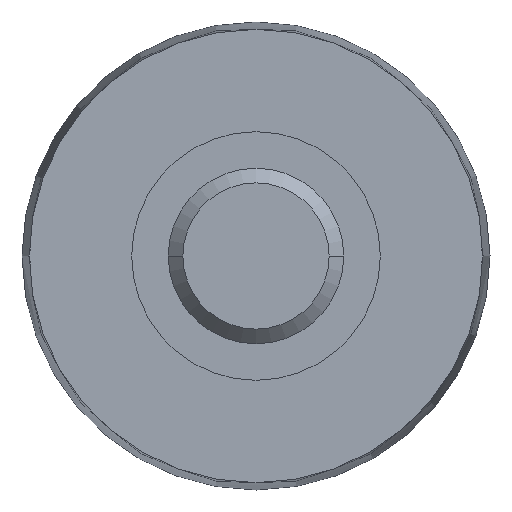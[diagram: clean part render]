
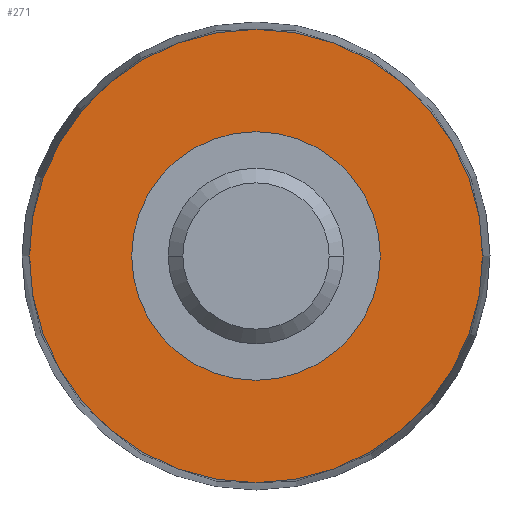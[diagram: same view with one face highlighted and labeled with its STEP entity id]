
A CAD part, left-side view. The second image highlights one B-rep face of the part: STEP entity #271.
In plain terms, the highlighted planar face has unit normal (-1, 0, 0).
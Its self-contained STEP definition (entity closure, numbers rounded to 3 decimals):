
#6 = CARTESIAN_POINT ( 'NONE',  ( -60., 0., 0. ) ) ;
#15 = DIRECTION ( 'NONE',  ( 1., 0., 0. ) ) ;
#34 = ORIENTED_EDGE ( 'NONE', *, *, #617, .F. ) ;
#105 = DIRECTION ( 'NONE',  ( 0., 1., 0. ) ) ;
#141 = DIRECTION ( 'NONE',  ( 0., 1., 0. ) ) ;
#151 = AXIS2_PLACEMENT_3D ( 'NONE', #351, #291, #141 ) ;
#163 = EDGE_CURVE ( 'NONE', #568, #421, #601, .T. ) ;
#183 = CIRCLE ( 'NONE', #225, 15.5 ) ;
#186 = VERTEX_POINT ( 'NONE', #647 ) ;
#212 = AXIS2_PLACEMENT_3D ( 'NONE', #6, #15, #362 ) ;
#225 = AXIS2_PLACEMENT_3D ( 'NONE', #385, #522, #431 ) ;
#236 = CARTESIAN_POINT ( 'NONE',  ( -60., 15.5, 0. ) ) ;
#254 = DIRECTION ( 'NONE',  ( 0., -1., 0. ) ) ;
#267 = EDGE_LOOP ( 'NONE', ( #535, #367 ) ) ;
#269 = FACE_OUTER_BOUND ( 'NONE', #612, .T. ) ;
#271 = ADVANCED_FACE ( 'NONE', ( #388, #269 ), #312, .T. ) ;
#291 = DIRECTION ( 'NONE',  ( 1., 0., 0. ) ) ;
#303 = DIRECTION ( 'NONE',  ( 1., 0., 0. ) ) ;
#312 = PLANE ( 'NONE',  #636 ) ;
#351 = CARTESIAN_POINT ( 'NONE',  ( -60., 0., 0. ) ) ;
#353 = CARTESIAN_POINT ( 'NONE',  ( -60., 8.5, 0. ) ) ;
#362 = DIRECTION ( 'NONE',  ( 0., 1., 0. ) ) ;
#367 = ORIENTED_EDGE ( 'NONE', *, *, #417, .T. ) ;
#385 = CARTESIAN_POINT ( 'NONE',  ( -60., 0., 0. ) ) ;
#388 = FACE_BOUND ( 'NONE', #267, .T. ) ;
#396 = CARTESIAN_POINT ( 'NONE',  ( -60., -8.5, 0. ) ) ;
#404 = EDGE_CURVE ( 'NONE', #186, #450, #183, .T. ) ;
#409 = CIRCLE ( 'NONE', #212, 15.5 ) ;
#417 = EDGE_CURVE ( 'NONE', #421, #568, #476, .T. ) ;
#421 = VERTEX_POINT ( 'NONE', #396 ) ;
#431 = DIRECTION ( 'NONE',  ( 0., 1., 0. ) ) ;
#439 = DIRECTION ( 'NONE',  ( -1., 0., 0. ) ) ;
#450 = VERTEX_POINT ( 'NONE', #236 ) ;
#476 = CIRCLE ( 'NONE', #151, 8.5 ) ;
#522 = DIRECTION ( 'NONE',  ( 1., 0., 0. ) ) ;
#535 = ORIENTED_EDGE ( 'NONE', *, *, #163, .T. ) ;
#568 = VERTEX_POINT ( 'NONE', #353 ) ;
#591 = CARTESIAN_POINT ( 'NONE',  ( -60., 0., 0. ) ) ;
#601 = CIRCLE ( 'NONE', #624, 8.5 ) ;
#612 = EDGE_LOOP ( 'NONE', ( #34, #618 ) ) ;
#617 = EDGE_CURVE ( 'NONE', #450, #186, #409, .T. ) ;
#618 = ORIENTED_EDGE ( 'NONE', *, *, #404, .F. ) ;
#624 = AXIS2_PLACEMENT_3D ( 'NONE', #591, #303, #105 ) ;
#636 = AXIS2_PLACEMENT_3D ( 'NONE', #659, #439, #254 ) ;
#647 = CARTESIAN_POINT ( 'NONE',  ( -60., -15.5, 0. ) ) ;
#659 = CARTESIAN_POINT ( 'NONE',  ( -60., 8.5, 0. ) ) ;
